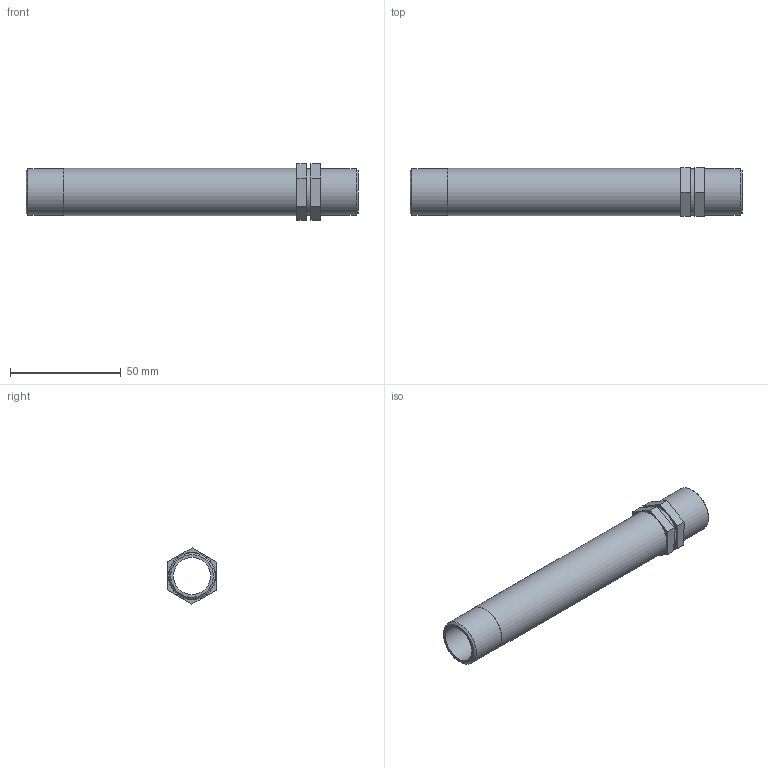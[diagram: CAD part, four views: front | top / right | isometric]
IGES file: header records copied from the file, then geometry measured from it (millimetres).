
Global section: file name: 051607005_0516070050A.ipt; native system: Autodesk Inventor 2015; preprocessor: unknown; author: KIM; date: 20170618.093320; units: millimetre
Bounding box: 150 x 22.04 x 25.4 mm (x, y, z)
Volume: 20315.3 mm3; surface area: 18445.7 mm2
Topology: 1 solids, 1 shells, 26 faces, 57 edges, 38 vertices
Faces by surface type: plane 19, cylinder 4, cone 2, revolution 1
Full cylindrical faces by diameter (mm): 20.955 x3, 21.272 x1
